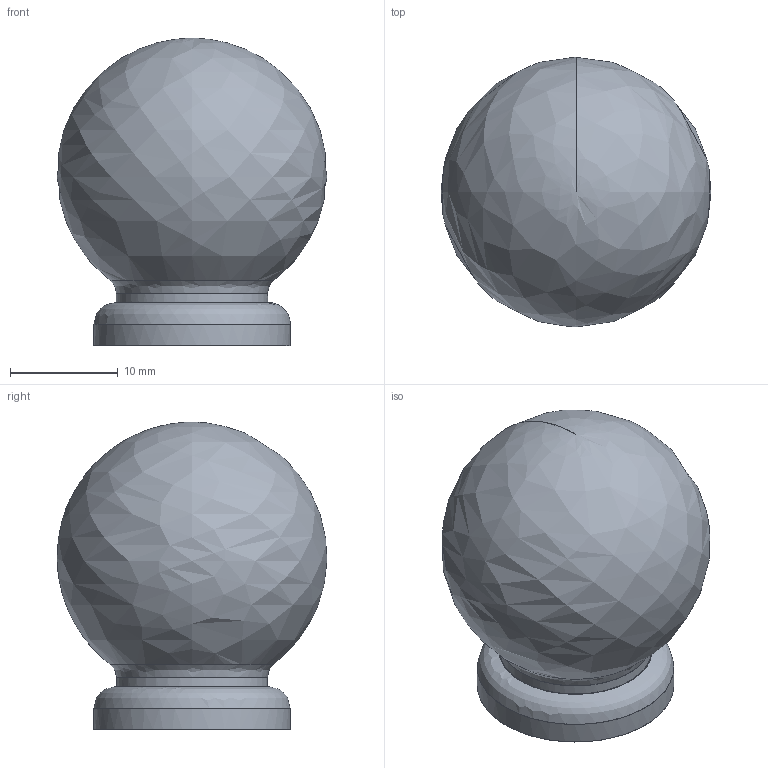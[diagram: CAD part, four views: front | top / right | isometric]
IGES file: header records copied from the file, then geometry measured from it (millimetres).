
Start section: C
Global section: file name: 8009-25.igs; native system: By Siemens PLM Incorporated; preprocessor: XPlus GENERIC/IGES 16.0.42; author: Author; organization: Title; date: 20231129.083803; units: millimetre
Bounding box: 24.99 x 24.99 x 28.5 mm (x, y, z)
Surface area: 3881.9 mm2 (no closed solid volume)
Topology: 0 solids, 0 shells, 24 faces, 131 edges, 130 vertices
Faces by surface type: bspline 24
